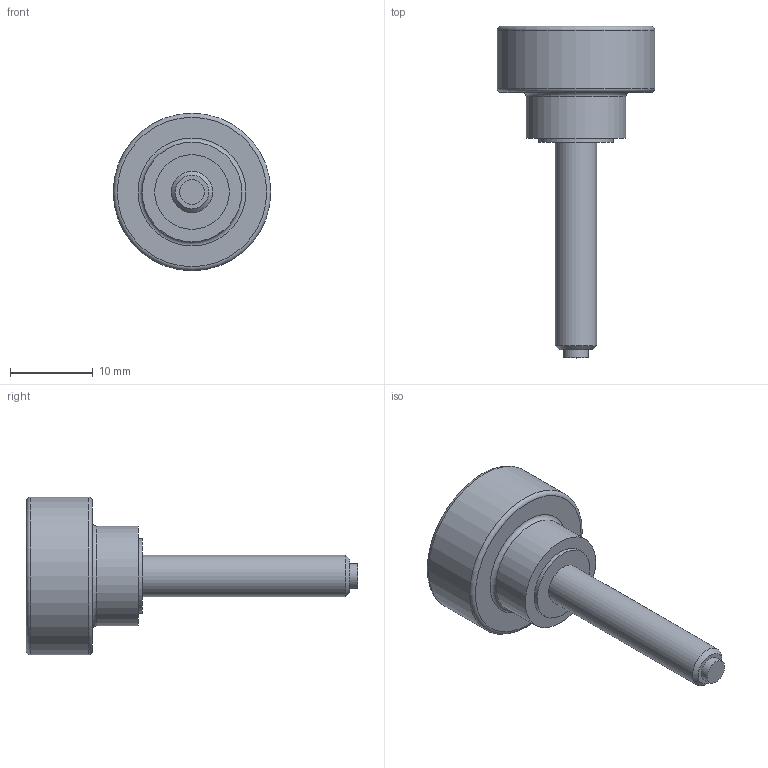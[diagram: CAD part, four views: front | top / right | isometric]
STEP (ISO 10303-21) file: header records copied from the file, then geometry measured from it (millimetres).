
FILE_DESCRIPTION( ( 'STEP AP203' ), '1' );
FILE_NAME( 'C:/Temp/Ganter_Step_05_03_2020/data/2_2/gn_421_10/Hollow knurled knob, with tip GN 421.10-M5-25-KU.stp', '2020-03-05T12:25:31', ( 'License CC BY-ND 4.0' ), ( 'CADENAS' ), ' ', 'PARTsolutions', ' ' );
FILE_SCHEMA( ( 'CONFIG_CONTROL_DESIGN' ) );
Length unit declared in the file: millimetre
Products named in the file (1): _Hollow knurled knob, with tip GN 421.10-M5-25-KU
Bounding box: 19 x 40 x 19 mm (x, y, z)
Volume: 2408.7 mm3; surface area: 1931.1 mm2
Topology: 1 solids, 1 shells, 19 faces, 30 edges, 19 vertices
Faces by surface type: plane 8, cylinder 7, torus 3, cone 1
Full cylindrical faces by diameter (mm): 3 x1, 5 x1, 8 x1, 9 x1, 12 x1, 16 x1, 19 x1
Entity records: 418 total; most frequent: DIRECTION 76, CARTESIAN_POINT 56, AXIS2_PLACEMENT_3D 38, EDGE_LOOP 36, ORIENTED_EDGE 36, FACE_OUTER_BOUND 29, ADVANCED_FACE 19, EDGE_CURVE 18
